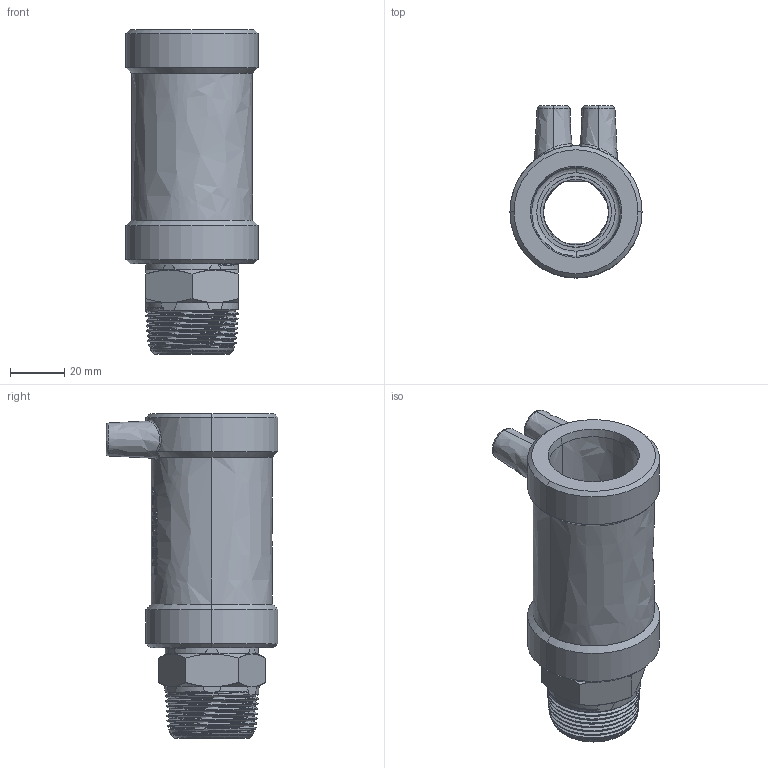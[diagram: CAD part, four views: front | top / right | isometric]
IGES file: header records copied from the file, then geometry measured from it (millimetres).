
Start section:  PTC IGES file: mun_d32_1_01.igs
Global section: file name: mun_d32_1_01.igs; native system: Pro/ENGINEER by Parametric Technology Corporation; preprocessor: 2011490; author: mtunjic; organization: Unknown; date: 20130823.152931; units: millimetre
Bounding box: 48.5 x 63.15 x 119.3 mm (x, y, z)
Surface area: 33014.8 mm2 (no closed solid volume)
Topology: 0 solids, 0 shells, 304 faces, 1554 edges, 1554 vertices
Faces by surface type: bspline 304
